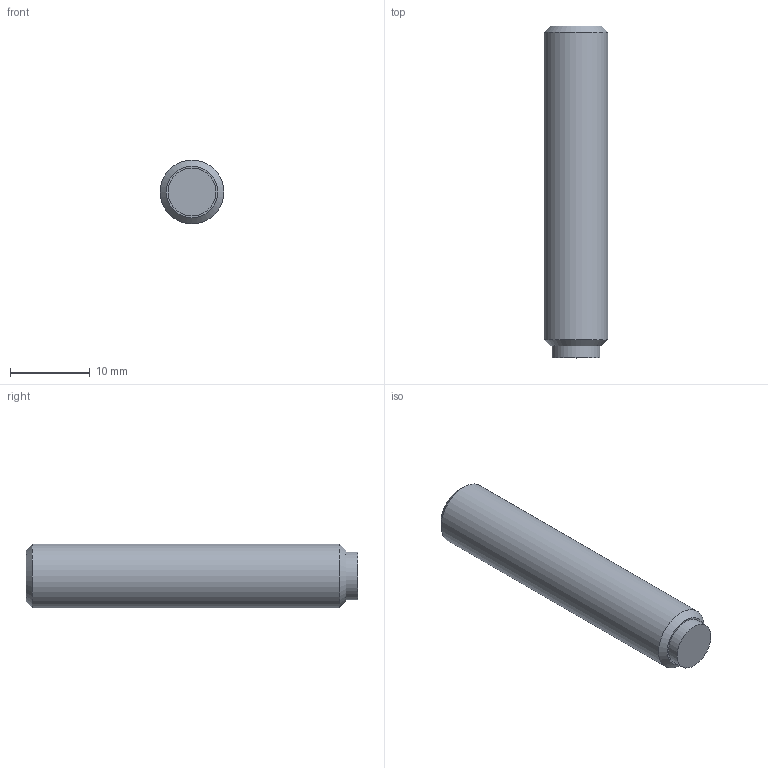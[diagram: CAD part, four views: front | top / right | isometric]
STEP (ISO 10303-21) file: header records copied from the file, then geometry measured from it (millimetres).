
FILE_DESCRIPTION( ( 'STEP AP203' ), '1' );
FILE_NAME( 'C:/Temp/Ganter_Step_05_03_2020/data/3_2/gn913_3/Grub screw GN 913.3-M8-40-MS.stp', '2020-03-13T05:35:51', ( 'License CC BY-ND 4.0' ), ( 'CADENAS' ), ' ', 'PARTsolutions', ' ' );
FILE_SCHEMA( ( 'CONFIG_CONTROL_DESIGN' ) );
Length unit declared in the file: millimetre
Products named in the file (1): _Grub screw GN 913.3-M8-40-MS
Bounding box: 8 x 41.5 x 8 mm (x, y, z)
Volume: 1969.9 mm3; surface area: 1179.3 mm2
Topology: 1 solids, 1 shells, 14 faces, 28 edges, 18 vertices
Faces by surface type: plane 10, cylinder 2, cone 2
Full cylindrical faces by diameter (mm): 6 x1, 8 x1
Entity records: 386 total; most frequent: DIRECTION 60, CARTESIAN_POINT 57, ORIENTED_EDGE 48, EDGE_CURVE 24, AXIS2_PLACEMENT_3D 21, EDGE_LOOP 20, VERTEX_POINT 18, LINE 18
